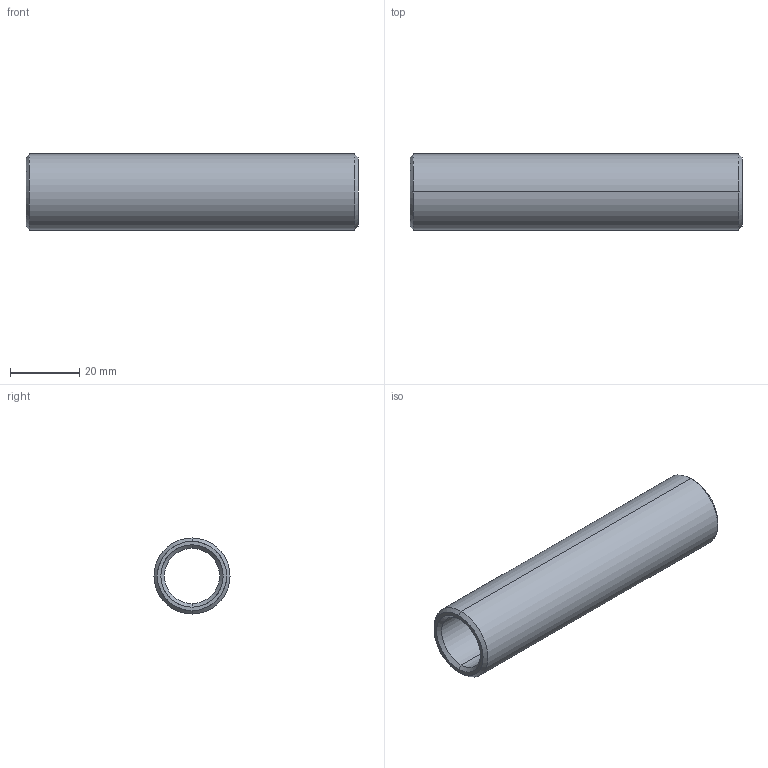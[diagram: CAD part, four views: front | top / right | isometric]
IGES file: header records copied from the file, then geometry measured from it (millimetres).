
Start section: START RECORD GO HERE.
Global section: file name: 352-16X96.igs; native system: DASSAULT SYSTEMES CATIA V5 R20 - www.3ds.com; preprocessor: CATIA Version 5 Release 20 ; author: Utente; organization: NB04-ASUS; date: 20210410.112847; units: millimetre
Bounding box: 96 x 22 x 22 mm (x, y, z)
Surface area: 11685.8 mm2 (no closed solid volume)
Topology: 0 solids, 0 shells, 14 faces, 88 edges, 88 vertices
Faces by surface type: revolution 12, plane 2
